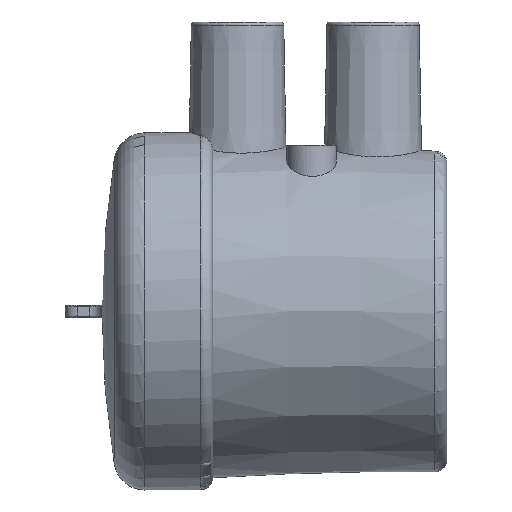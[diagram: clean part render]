
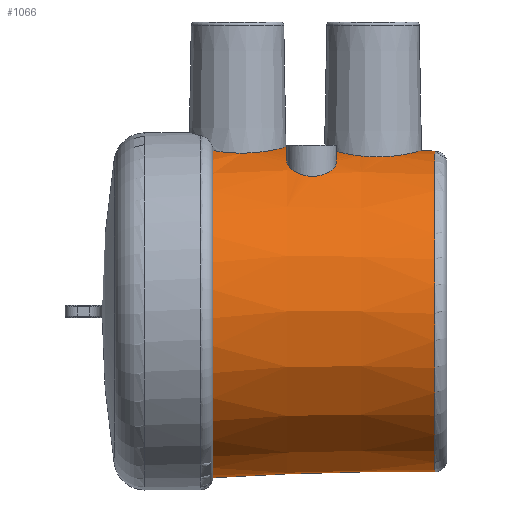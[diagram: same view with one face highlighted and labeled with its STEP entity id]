
A CAD part, front view. The second image highlights one B-rep face of the part: STEP entity #1066.
In plain terms, the highlighted conical face has half-angle 1.507 degrees and reference radius 27 mm.
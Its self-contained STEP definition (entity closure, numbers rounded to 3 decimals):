
#180=B_SPLINE_CURVE_WITH_KNOTS('',3,(#1757,#1758,#1759,#1760,#1761,#1762,
#1763,#1764,#1765,#1766,#1767,#1768,#1769,#1770,#1771,#1772,#1773,#1774,
#1775),.UNSPECIFIED.,.T.,.F.,(1,1,1,1,1,1,1,1,1,1,1,1,1,1,1,1,1,1,1,1,1,
1,1),(-0.005,-0.003,-0.002,0.,
0.002,0.003,0.005,0.007,
0.008,0.01,0.012,0.013,
0.015,0.016,0.018,0.02,
0.021,0.023,0.025,0.026,
0.028,0.03,0.031),.UNSPECIFIED.);
#181=B_SPLINE_CURVE_WITH_KNOTS('',3,(#1777,#1778,#1779,#1780),
 .UNSPECIFIED.,.F.,.F.,(4,4),(0.,0.),.UNSPECIFIED.);
#182=B_SPLINE_CURVE_WITH_KNOTS('',3,(#1783,#1784,#1785,#1786),
 .UNSPECIFIED.,.F.,.F.,(4,4),(0.001,0.001),
 .UNSPECIFIED.);
#183=B_SPLINE_CURVE_WITH_KNOTS('',3,(#1788,#1789,#1790,#1791),
 .UNSPECIFIED.,.F.,.F.,(4,4),(0.,0.036),.UNSPECIFIED.);
#184=B_SPLINE_CURVE_WITH_KNOTS('',3,(#1793,#1794,#1795,#1796),
 .UNSPECIFIED.,.F.,.F.,(4,4),(0.,0.),.UNSPECIFIED.);
#185=B_SPLINE_CURVE_WITH_KNOTS('',3,(#1800,#1801,#1802,#1803,#1804,#1805,
#1806,#1807,#1808,#1809,#1810),.UNSPECIFIED.,.F.,.F.,(4,1,1,1,1,1,1,1,4),
(0.002,0.006,0.01,0.014,
0.018,0.022,0.026,0.03,
0.035),.UNSPECIFIED.);
#186=B_SPLINE_CURVE_WITH_KNOTS('',3,(#1814,#1815,#1816,#1817),
 .UNSPECIFIED.,.F.,.F.,(4,4),(0.,0.),.UNSPECIFIED.);
#187=B_SPLINE_CURVE_WITH_KNOTS('',3,(#1819,#1820,#1821,#1822),
 .UNSPECIFIED.,.F.,.F.,(4,4),(0.,0.036),
 .UNSPECIFIED.);
#188=B_SPLINE_CURVE_WITH_KNOTS('',3,(#1823,#1824,#1825,#1826,#1827,#1828,
#1829,#1830,#1831,#1832,#1833,#1834,#1835,#1836,#1837,#1838,#1839,#1840,
#1841),.UNSPECIFIED.,.T.,.F.,(1,1,1,1,1,1,1,1,1,1,1,1,1,1,1,1,1,1,1,1,1,
1,1),(-0.009,-0.006,-0.003,0.,
0.003,0.006,0.009,0.012,
0.015,0.019,0.022,0.025,
0.028,0.031,0.034,0.037,
0.04,0.043,0.046,0.05,
0.053,0.056,0.059),.UNSPECIFIED.);
#242=ORIENTED_EDGE('',*,*,#552,.F.);
#243=ORIENTED_EDGE('',*,*,#553,.T.);
#244=ORIENTED_EDGE('',*,*,#554,.T.);
#245=ORIENTED_EDGE('',*,*,#555,.T.);
#246=ORIENTED_EDGE('',*,*,#556,.T.);
#247=ORIENTED_EDGE('',*,*,#557,.T.);
#248=ORIENTED_EDGE('',*,*,#558,.F.);
#249=ORIENTED_EDGE('',*,*,#559,.T.);
#250=ORIENTED_EDGE('',*,*,#560,.F.);
#251=ORIENTED_EDGE('',*,*,#561,.T.);
#252=ORIENTED_EDGE('',*,*,#562,.T.);
#253=ORIENTED_EDGE('',*,*,#563,.T.);
#552=EDGE_CURVE('',#704,#704,#180,.T.);
#553=EDGE_CURVE('',#705,#683,#181,.T.);
#554=EDGE_CURVE('',#683,#678,#792,.F.);
#555=EDGE_CURVE('',#678,#706,#182,.T.);
#556=EDGE_CURVE('',#706,#707,#183,.T.);
#557=EDGE_CURVE('',#707,#708,#184,.T.);
#558=EDGE_CURVE('',#709,#708,#793,.T.);
#559=EDGE_CURVE('',#709,#710,#185,.T.);
#560=EDGE_CURVE('',#711,#710,#794,.T.);
#561=EDGE_CURVE('',#711,#712,#186,.T.);
#562=EDGE_CURVE('',#712,#705,#187,.T.);
#563=EDGE_CURVE('',#713,#713,#188,.T.);
#678=VERTEX_POINT('',#1628);
#683=VERTEX_POINT('',#1651);
#704=VERTEX_POINT('',#1776);
#705=VERTEX_POINT('',#1781);
#706=VERTEX_POINT('',#1787);
#707=VERTEX_POINT('',#1792);
#708=VERTEX_POINT('',#1797);
#709=VERTEX_POINT('',#1799);
#710=VERTEX_POINT('',#1811);
#711=VERTEX_POINT('',#1813);
#712=VERTEX_POINT('',#1818);
#713=VERTEX_POINT('',#1842);
#792=CIRCLE('',#1172,26.051);
#793=CIRCLE('',#1173,27.);
#794=CIRCLE('',#1174,27.);
#866=EDGE_LOOP('',(#242));
#867=EDGE_LOOP('',(#243,#244,#245,#246,#247,#248,#249,#250,#251,#252));
#868=EDGE_LOOP('',(#253));
#963=FACE_BOUND('',#866,.T.);
#964=FACE_BOUND('',#867,.T.);
#965=FACE_BOUND('',#868,.T.);
#1054=CONICAL_SURFACE('',#1171,27.,0.026);
#1066=ADVANCED_FACE('',(#963,#964,#965),#1054,.T.);
#1171=AXIS2_PLACEMENT_3D('',#1756,#1344,#1345);
#1172=AXIS2_PLACEMENT_3D('',#1782,#1346,#1347);
#1173=AXIS2_PLACEMENT_3D('',#1798,#1348,#1349);
#1174=AXIS2_PLACEMENT_3D('',#1812,#1350,#1351);
#1344=DIRECTION('',(-1.,0.,0.));
#1345=DIRECTION('',(0.,0.,1.));
#1346=DIRECTION('',(1.,0.,0.));
#1347=DIRECTION('',(0.,0.,-1.));
#1348=DIRECTION('',(-1.,0.,0.));
#1349=DIRECTION('',(0.,0.,1.));
#1350=DIRECTION('',(-1.,0.,0.));
#1351=DIRECTION('',(0.,0.,1.));
#1628=CARTESIAN_POINT('',(15.553,26.027,1.132));
#1651=CARTESIAN_POINT('',(15.553,26.027,-1.132));
#1756=CARTESIAN_POINT('',(-20.5,0.,0.));
#1757=CARTESIAN_POINT('',(-8.222,-12.697,23.479));
#1758=CARTESIAN_POINT('',(-7.359,-13.932,22.735));
#1759=CARTESIAN_POINT('',(-6.049,-14.804,22.127));
#1760=CARTESIAN_POINT('',(-4.402,-15.116,21.858));
#1761=CARTESIAN_POINT('',(-2.756,-14.722,22.078));
#1762=CARTESIAN_POINT('',(-1.479,-13.768,22.655));
#1763=CARTESIAN_POINT('',(-0.684,-12.477,23.373));
#1764=CARTESIAN_POINT('',(-0.405,-10.993,24.1));
#1765=CARTESIAN_POINT('',(-0.695,-9.47,24.744));
#1766=CARTESIAN_POINT('',(-1.57,-8.12,25.237));
#1767=CARTESIAN_POINT('',(-2.946,-7.191,25.548));
#1768=CARTESIAN_POINT('',(-4.606,-6.885,25.674));
#1769=CARTESIAN_POINT('',(-6.258,-7.279,25.614));
#1770=CARTESIAN_POINT('',(-7.59,-8.29,25.35));
#1771=CARTESIAN_POINT('',(-8.39,-9.699,24.874));
#1772=CARTESIAN_POINT('',(-8.587,-11.24,24.224));
#1773=CARTESIAN_POINT('',(-8.222,-12.697,23.479));
#1774=CARTESIAN_POINT('',(-7.359,-13.932,22.735));
#1775=CARTESIAN_POINT('',(-6.049,-14.804,22.127));
#1776=CARTESIAN_POINT('',(-7.285,-13.872,22.758));
#1777=CARTESIAN_POINT('',(15.243,26.03,-1.238));
#1778=CARTESIAN_POINT('',(15.355,26.027,-1.238));
#1779=CARTESIAN_POINT('',(15.464,26.026,-1.201));
#1780=CARTESIAN_POINT('',(15.553,26.027,-1.132));
#1781=CARTESIAN_POINT('',(15.243,26.03,-1.238));
#1782=CARTESIAN_POINT('',(15.553,0.,0.));
#1783=CARTESIAN_POINT('',(15.553,26.027,1.132));
#1784=CARTESIAN_POINT('',(15.466,26.026,1.2));
#1785=CARTESIAN_POINT('',(15.355,26.027,1.238));
#1786=CARTESIAN_POINT('',(15.243,26.03,1.238));
#1787=CARTESIAN_POINT('',(15.243,26.03,1.238));
#1788=CARTESIAN_POINT('',(15.243,26.03,1.238));
#1789=CARTESIAN_POINT('',(3.329,26.344,1.238));
#1790=CARTESIAN_POINT('',(-8.585,26.658,1.238));
#1791=CARTESIAN_POINT('',(-20.5,26.972,1.239));
#1792=CARTESIAN_POINT('',(-20.5,26.972,1.239));
#1793=CARTESIAN_POINT('',(-20.5,26.972,1.239));
#1794=CARTESIAN_POINT('',(-20.5,26.971,1.242));
#1795=CARTESIAN_POINT('',(-20.5,26.971,1.246));
#1796=CARTESIAN_POINT('',(-20.5,26.971,1.25));
#1797=CARTESIAN_POINT('',(-20.5,26.971,1.25));
#1798=CARTESIAN_POINT('',(-20.5,0.,0.));
#1799=CARTESIAN_POINT('',(-20.5,6.771,26.137));
#1800=CARTESIAN_POINT('',(-20.5,6.771,26.137));
#1801=CARTESIAN_POINT('',(-19.329,7.467,25.925));
#1802=CARTESIAN_POINT('',(-16.567,8.249,25.596));
#1803=CARTESIAN_POINT('',(-12.413,7.154,25.841));
#1804=CARTESIAN_POINT('',(-9.392,4.144,26.473));
#1805=CARTESIAN_POINT('',(-8.272,0.007,26.796));
#1806=CARTESIAN_POINT('',(-9.393,-4.147,26.473));
#1807=CARTESIAN_POINT('',(-12.41,-7.151,25.842));
#1808=CARTESIAN_POINT('',(-16.562,-8.249,25.596));
#1809=CARTESIAN_POINT('',(-19.323,-7.471,25.924));
#1810=CARTESIAN_POINT('',(-20.5,-6.771,26.137));
#1811=CARTESIAN_POINT('',(-20.5,-6.771,26.137));
#1812=CARTESIAN_POINT('',(-20.5,0.,0.));
#1813=CARTESIAN_POINT('',(-20.5,26.971,-1.25));
#1814=CARTESIAN_POINT('',(-20.5,26.971,-1.25));
#1815=CARTESIAN_POINT('',(-20.5,26.971,-1.246));
#1816=CARTESIAN_POINT('',(-20.5,26.971,-1.242));
#1817=CARTESIAN_POINT('',(-20.5,26.972,-1.239));
#1818=CARTESIAN_POINT('',(-20.5,26.972,-1.239));
#1819=CARTESIAN_POINT('',(-20.5,26.972,-1.239));
#1820=CARTESIAN_POINT('',(-8.585,26.658,-1.238));
#1821=CARTESIAN_POINT('',(3.329,26.344,-1.238));
#1822=CARTESIAN_POINT('',(15.243,26.03,-1.238));
#1823=CARTESIAN_POINT('',(2.45,-7.485,25.322));
#1824=CARTESIAN_POINT('',(-0.159,-5.754,25.864));
#1825=CARTESIAN_POINT('',(-1.917,-3.167,26.376));
#1826=CARTESIAN_POINT('',(-2.564,-0.068,26.592));
#1827=CARTESIAN_POINT('',(-1.969,3.043,26.392));
#1828=CARTESIAN_POINT('',(-0.252,5.659,25.889));
#1829=CARTESIAN_POINT('',(2.317,7.428,25.343));
#1830=CARTESIAN_POINT('',(5.409,8.091,25.042));
#1831=CARTESIAN_POINT('',(8.531,7.498,25.15));
#1832=CARTESIAN_POINT('',(11.155,5.767,25.556));
#1833=CARTESIAN_POINT('',(12.922,3.174,25.982));
#1834=CARTESIAN_POINT('',(13.572,0.076,26.168));
#1835=CARTESIAN_POINT('',(12.978,-3.043,25.997));
#1836=CARTESIAN_POINT('',(11.25,-5.672,25.576));
#1837=CARTESIAN_POINT('',(8.657,-7.445,25.164));
#1838=CARTESIAN_POINT('',(5.553,-8.091,25.038));
#1839=CARTESIAN_POINT('',(2.45,-7.485,25.322));
#1840=CARTESIAN_POINT('',(-0.159,-5.754,25.864));
#1841=CARTESIAN_POINT('',(-1.917,-3.167,26.376));
#1842=CARTESIAN_POINT('',(-0.017,-5.611,25.859));
